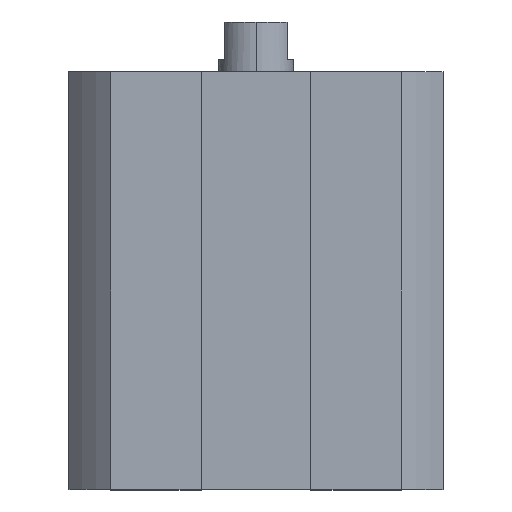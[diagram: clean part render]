
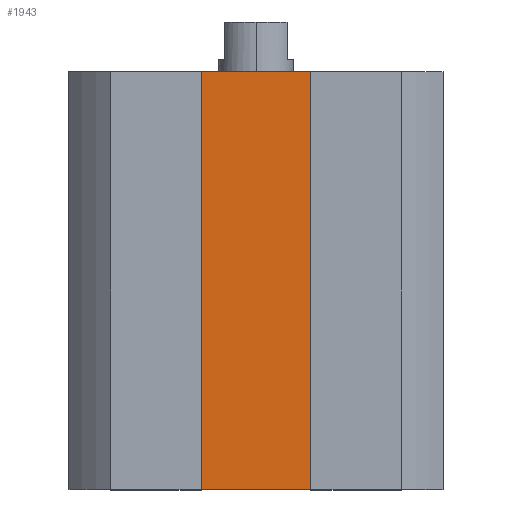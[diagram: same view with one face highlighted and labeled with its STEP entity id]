
A CAD part, top view. The second image highlights one B-rep face of the part: STEP entity #1943.
In plain terms, the highlighted planar face has unit normal (0, 0, 1).
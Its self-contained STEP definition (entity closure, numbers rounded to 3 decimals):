
#3 = EDGE_CURVE ( 'NONE', #685, #791, #1628, .T. ) ;
#6 = DIRECTION ( 'NONE',  ( 0., 1., 0. ) ) ;
#30 = PLANE ( 'NONE',  #664 ) ;
#89 = ORIENTED_EDGE ( 'NONE', *, *, #1790, .T. ) ;
#95 = EDGE_CURVE ( 'NONE', #2240, #2134, #760, .T. ) ;
#387 = CARTESIAN_POINT ( 'NONE',  ( -4.4, -33.5, 10. ) ) ;
#647 = VECTOR ( 'NONE', #6, 1000. ) ;
#664 = AXIS2_PLACEMENT_3D ( 'NONE', #1651, #940, #2024 ) ;
#685 = VERTEX_POINT ( 'NONE', #1720 ) ;
#760 = LINE ( 'NONE', #784, #1575 ) ;
#784 = CARTESIAN_POINT ( 'NONE',  ( 0., -33.5, 10. ) ) ;
#789 = ORIENTED_EDGE ( 'NONE', *, *, #1071, .F. ) ;
#791 = VERTEX_POINT ( 'NONE', #856 ) ;
#830 = CARTESIAN_POINT ( 'NONE',  ( 0., 0., 10. ) ) ;
#856 = CARTESIAN_POINT ( 'NONE',  ( 4.4, 0., 10. ) ) ;
#940 = DIRECTION ( 'NONE',  ( 0., 0., 1. ) ) ;
#973 = CARTESIAN_POINT ( 'NONE',  ( -4.4, -33.5, 10. ) ) ;
#1071 = EDGE_CURVE ( 'NONE', #2240, #685, #1179, .T. ) ;
#1179 = LINE ( 'NONE', #387, #647 ) ;
#1372 = DIRECTION ( 'NONE',  ( 1., 0., 0. ) ) ;
#1514 = DIRECTION ( 'NONE',  ( 1., 0., 0. ) ) ;
#1539 = LINE ( 'NONE', #2354, #1615 ) ;
#1575 = VECTOR ( 'NONE', #1514, 1000. ) ;
#1615 = VECTOR ( 'NONE', #1771, 1000. ) ;
#1628 = LINE ( 'NONE', #830, #1769 ) ;
#1651 = CARTESIAN_POINT ( 'NONE',  ( 0., -33.5, 10. ) ) ;
#1668 = CARTESIAN_POINT ( 'NONE',  ( 4.4, -33.5, 10. ) ) ;
#1720 = CARTESIAN_POINT ( 'NONE',  ( -4.4, 0., 10. ) ) ;
#1769 = VECTOR ( 'NONE', #1372, 1000. ) ;
#1771 = DIRECTION ( 'NONE',  ( 0., 1., 0. ) ) ;
#1790 = EDGE_CURVE ( 'NONE', #2134, #791, #1539, .T. ) ;
#1862 = ORIENTED_EDGE ( 'NONE', *, *, #3, .F. ) ;
#1943 = ADVANCED_FACE ( 'NONE', ( #2121 ), #30, .T. ) ;
#2024 = DIRECTION ( 'NONE',  ( 1., 0., 0. ) ) ;
#2061 = ORIENTED_EDGE ( 'NONE', *, *, #95, .T. ) ;
#2121 = FACE_OUTER_BOUND ( 'NONE', #2152, .T. ) ;
#2134 = VERTEX_POINT ( 'NONE', #1668 ) ;
#2152 = EDGE_LOOP ( 'NONE', ( #1862, #789, #2061, #89 ) ) ;
#2240 = VERTEX_POINT ( 'NONE', #973 ) ;
#2354 = CARTESIAN_POINT ( 'NONE',  ( 4.4, -33.5, 10. ) ) ;
